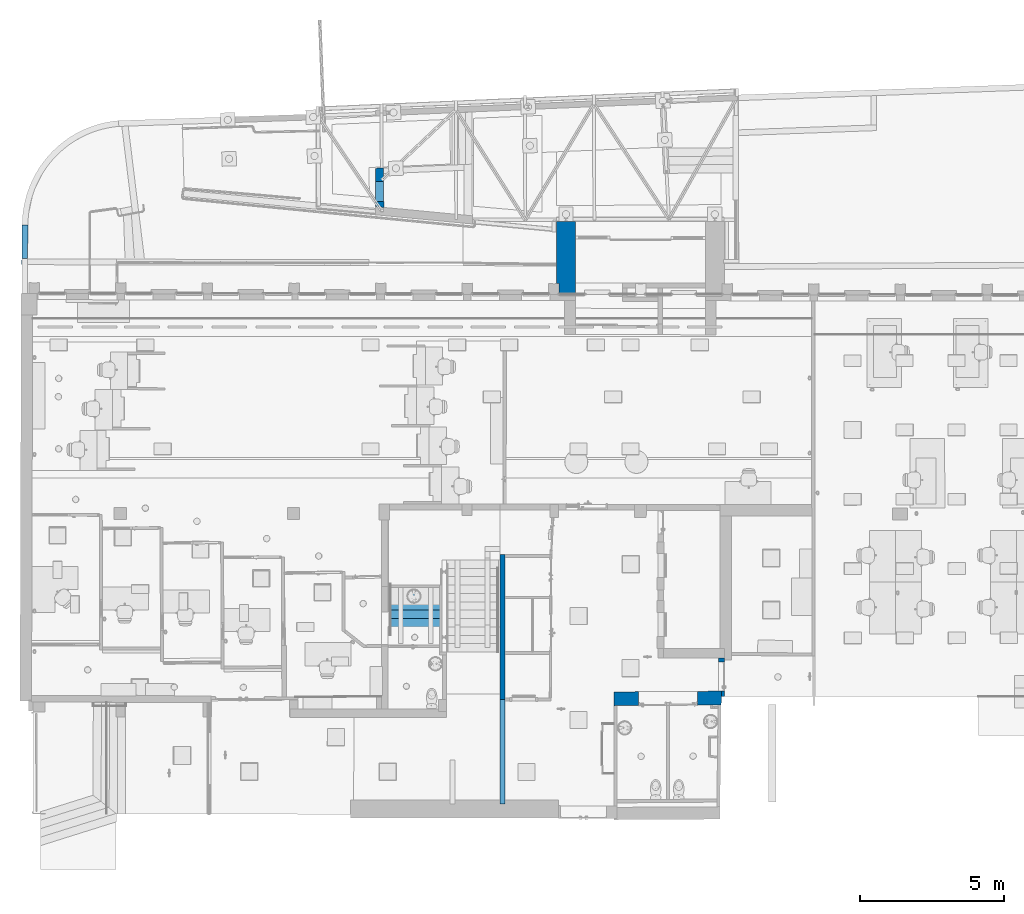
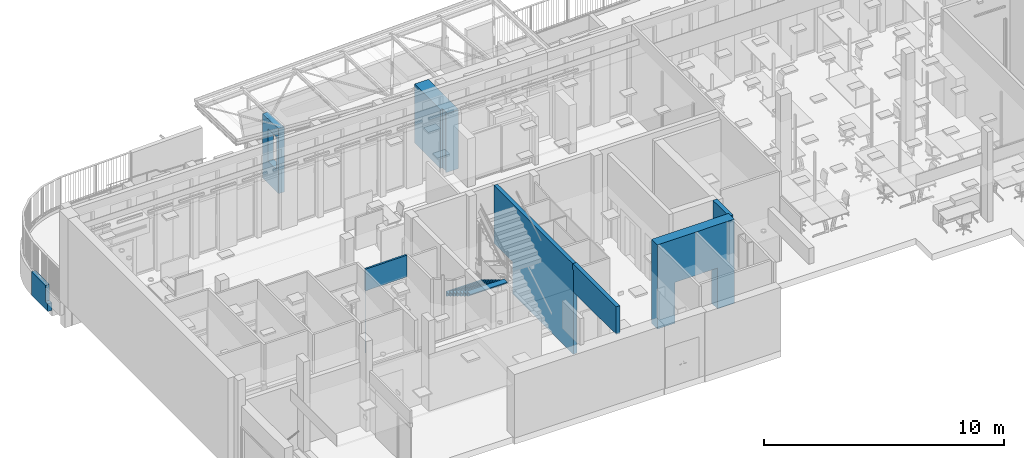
# One storey, part 33 of 128: 8 walls, 1 stair flight, 1 opening, 1 element without a shape of its own.
"""IFC2X3 building model written with IfcOpenShell, lengths in metres."""

from ifc_helpers import new_model, entity, si_unit, converted_unit, derived_unit, direction, frame, frame_2d, origin, place, context, subcontext, project, spatial, polyline, rectangle, outline, extrude, faceted_brep, material, layer, layer_set, type_object, element, aggregate, save


model = new_model("IFC2X3")

# Units and contexts
model_context = context("Model", 3, precision=1e-05, world=origin(), true_north=direction((6.123031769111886e-17, 1.0)))
body_context = subcontext(model_context, "Body", "Model", "MODEL_VIEW")
ifc_project = project(units=[si_unit("LENGTHUNIT", "METRE"), si_unit("AREAUNIT", "SQUARE_METRE"), converted_unit("PLANEANGLEUNIT", "DEGREE", entity("IfcPlaneAngleMeasure", 0.017453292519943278), si_unit("PLANEANGLEUNIT", "RADIAN"), dimensions=[0, 0, 0, 0, 0, 0, 0]), derived_unit("THERMALTRANSMITTANCEUNIT", [(si_unit("MASSUNIT", "GRAM", prefix="KILO"), 1), (si_unit("THERMODYNAMICTEMPERATUREUNIT", "KELVIN"), -1), (si_unit("TIMEUNIT", "SECOND"), -3)])], contexts=[model_context])

# Site, building, storey
site_placement = place(None, origin())
site = spatial("IfcSite", under=ifc_project, at=site_placement, Name="Default", CompositionType="ELEMENT")
building_placement = place(site_placement, origin())
building = spatial("IfcBuilding", under=site, at=building_placement, CompositionType="ELEMENT")
storey_placement = place(building_placement, origin())
storey = spatial("IfcBuildingStorey", under=building, at=storey_placement, Name="00_RDC CAF", CompositionType="ELEMENT", Elevation=2.4982504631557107e-13)

# Walls
ifc_material_1 = material(Name="STR - Beton Mur")
ifc_layer_1 = layer(ifc_material_1, 0.18)
ifc_layer_set_1 = layer_set([ifc_layer_1], Name="Mur de base:M_Int_Beton_180mm")
wall_type_1 = type_object("IfcWallType", Name="Mur de base:M_Int_Beton_180mm", PredefinedType="STANDARD", material=ifc_layer_set_1)
wall_1_placement = place(storey_placement, frame((22.969127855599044, 130.06823933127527, 0.0), z_axis=(0.0, 0.0, 1.0), x_axis=(0.0, 1.0, 0.0)))
element("IfcWall", 1, at=wall_1_placement, inside=storey, type_object=wall_type_1, Name="Mur de base:M_Int_Beton_180mm", ObjectType="Mur de base:M_Int_Beton_180mm", context=body_context, shape_type="Brep", body=[
    faceted_brep([(0.0, -0.08999999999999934, 4.278), (0.0, -0.08999999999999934, 3.1693846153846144), (0.0, -0.08999999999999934, 2.8694000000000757), (0.0, -0.08999999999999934, 0.0), (0.09999999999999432, -0.08999999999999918, 0.0), (1.6062939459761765, -0.09000000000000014, 0.0), (1.7062946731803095, -0.08999999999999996, 0.0), (3.5449463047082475, -0.08999999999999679, 0.0), (3.6049463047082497, -0.08999999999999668, 0.0), (4.959946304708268, -0.0899999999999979, 0.0), (5.059946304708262, -0.08999999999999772, 0.0), (5.059946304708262, -0.08999999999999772, 1.636846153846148), (6.614234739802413, -0.0899999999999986, 1.636846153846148), (6.614234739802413, -0.0899999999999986, 4.577999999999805), (5.099632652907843, -0.08999999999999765, 4.577999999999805), (0.04999999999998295, -0.08999999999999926, 4.577999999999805), (0.04999999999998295, -0.08999999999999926, 4.278), (0.0, 0.09000000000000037, 0.0), (0.0, 0.09000000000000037, 2.8694000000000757), (0.0, 0.09000000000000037, 3.169384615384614), (0.0, 0.09000000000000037, 4.278), (0.04999999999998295, 0.09000000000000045, 4.278), (0.04999999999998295, 0.09000000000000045, 4.577999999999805), (5.099632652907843, 0.09000000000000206, 4.577999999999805), (6.614234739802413, 0.08999999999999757, 4.577999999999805), (6.614234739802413, 0.08999999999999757, 1.636846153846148), (5.059946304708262, 0.090000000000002, 1.636846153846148), (5.059946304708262, 0.090000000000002, 0.0)], [[[0, 1, 2, 3, 4, 5, 6, 7, 8, 9, 10, 11, 12, 13, 14, 15, 16]], [[17, 18, 19, 20, 21, 22, 23, 24, 25, 26, 27]], [[10, 9, 8, 7, 6, 5, 4, 3, 17, 27]], [[15, 14, 23, 22]], [[12, 11, 26, 25]], [[13, 12, 25, 24]], [[14, 13, 24, 23]], [[11, 10, 27, 26]], [[16, 15, 22, 21]], [[16, 21, 20, 0]], [[0, 20, 19, 18, 17, 3, 2, 1]]]),
])
wall_2_placement = place(storey_placement, frame((22.969127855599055, 130.11823933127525, 3.1693846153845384), z_axis=(0.0, 0.0, 1.0), x_axis=(0.0, -1.0, 0.0)))
element("IfcWall", 2, at=wall_2_placement, inside=storey, type_object=wall_type_1, Name="Mur de base:M_Int_Beton_180mm", ObjectType="Mur de base:M_Int_Beton_180mm", context=body_context, shape_type="Brep", body=[
    faceted_brep([(0.04999999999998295, -0.08999999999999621, 0.0), (2.1074878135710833, -0.08999999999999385, 0.0), (2.2874878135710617, -0.09000000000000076, 0.0), (3.6259827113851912, -0.08999999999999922, 0.0), (3.6259827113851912, -0.08999999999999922, 1.4086153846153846), (2.2874878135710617, -0.09000000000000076, 1.4086153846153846), (2.1074878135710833, -0.08999999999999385, 1.4086153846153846), (0.0, -0.08999999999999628, 1.4086153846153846), (0.0, -0.08999999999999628, 1.1086153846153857), (0.04999999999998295, -0.08999999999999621, 1.1086153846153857), (0.04999999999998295, 0.08999999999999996, 0.0), (0.04999999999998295, 0.08999999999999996, 1.1086153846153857), (0.0, 0.08999999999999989, 1.1086153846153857), (0.0, 0.08999999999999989, 1.4086153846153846), (3.6259827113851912, 0.0900000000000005, 1.4086153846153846), (3.6259827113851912, 0.0900000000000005, 0.0)], [[[0, 1, 2, 3, 4, 5, 6, 7, 8, 9]], [[10, 11, 12, 13, 14, 15]], [[3, 2, 1, 0, 10, 15]], [[4, 3, 15, 14]], [[7, 6, 5, 4, 14, 13]], [[8, 7, 13, 12]], [[8, 12, 11, 9]], [[0, 9, 11, 10]]]),
])
ifc_material_2 = material(Name="ARC - Cloison")
ifc_layer_2 = layer(ifc_material_2, 0.09)
ifc_layer_set_2 = layer_set([ifc_layer_2], Name="Mur de base:Cl_Platre_90mm")
wall_type_2 = type_object("IfcWallType", Name="Mur de base:Cl_Platre_90mm", PredefinedType="STANDARD", material=ifc_layer_set_2)
wall_3_placement = place(storey_placement, frame((15.414664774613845, 134.49034258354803, 0.0), z_axis=(0.0, 0.0, 1.0), x_axis=(0.9998908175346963, 0.014776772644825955, 0.0)))
element("IfcWall", 3, at=wall_3_placement, inside=storey, type_object=wall_type_2, Name="Mur de base:Cl_Platre_90mm", ObjectType="Mur de base:Cl_Platre_90mm", context=body_context, shape_type="Brep", body=[
    faceted_brep([(2.004537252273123, -0.044999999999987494, 4.278), (0.0, -0.044999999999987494, 4.278), (0.0, -0.044999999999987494, 0.0), (0.0005472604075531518, -0.045000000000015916, 0.0), (0.0005472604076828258, -0.045000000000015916, 3.174999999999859), (2.004537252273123, -0.044999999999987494, 3.174999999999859), (0.001094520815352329, 0.045000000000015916, 4.278), (2.0045372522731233, 0.045000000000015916, 4.278), (2.004537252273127, 0.045000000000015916, 3.174999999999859), (0.001094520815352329, 0.045000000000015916, 3.174999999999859), (0.000547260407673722, 0.0, 0.0), (0.0005472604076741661, -0.025000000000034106, 0.0), (2.0045372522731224, -0.02499999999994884, 3.174999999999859), (2.0045372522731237, 0.0, 3.174999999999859), (0.0005472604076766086, 0.0, 3.174999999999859), (0.0005472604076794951, -0.025000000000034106, 3.174999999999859)], [[[0, 1, 2, 3, 4, 5]], [[6, 7, 8, 9]], [[3, 2, 10, 11]], [[7, 0, 5, 12, 13, 8]], [[1, 0, 7, 6]], [[2, 1, 6, 9, 14, 10]], [[5, 4, 15, 14, 9, 8, 13, 12]], [[4, 3, 11, 10, 14, 15]]]),
])

# Wall, opening
ifc_layer_3 = layer(ifc_material_1, 0.20999999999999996)
ifc_layer_set_3 = layer_set([ifc_layer_3], Name="Mur de base:M_Int_Beton_210mm")
wall_type_3 = type_object("IfcWallType", Name="Mur de base:M_Int_Beton_210mm", PredefinedType="STANDARD", material=ifc_layer_set_3)
wall_4_placement = place(storey_placement, frame((30.553265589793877, 131.55552141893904, 0.0), z_axis=(0.0, 0.0, 1.0), x_axis=(0.0, -1.0, 0.0)))
wall_4 = element("IfcWall", 4, at=wall_4_placement, inside=storey, type_object=wall_type_3, Name="Mur de base:M_Int_Beton_210mm", ObjectType="Mur de base:M_Int_Beton_210mm", context=body_context, shape_type="Brep", body=[
    faceted_brep([(0.0, -0.10500000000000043, 0.0), (0.1527245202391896, -0.10500000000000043, 0.0), (0.1527245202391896, -0.10500000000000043, 2.0050000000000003), (1.1527245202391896, -0.10500000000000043, 2.0050000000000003), (1.1527245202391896, -0.10500000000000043, 0.0), (1.1548155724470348, -0.10500000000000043, 0.0), (1.1548155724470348, -0.10500000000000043, 4.278), (0.0, -0.10500000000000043, 4.278), (1.3405848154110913, 0.10500000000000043, 4.278), (1.3405848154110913, 0.10500000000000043, 0.0), (1.1527245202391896, 0.10500000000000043, 0.0), (1.1527245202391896, 0.10500000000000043, 2.0050000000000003), (0.1527245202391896, 0.10500000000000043, 2.0050000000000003), (0.1527245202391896, 0.10500000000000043, 0.0), (0.08097166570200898, 0.10500000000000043, 0.0), (0.0, 0.10500000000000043, 0.0), (0.0, 0.10500000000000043, 4.278), (0.08097166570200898, 0.10500000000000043, 4.278), (1.3405848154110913, -0.0063559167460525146, 4.278), (1.3405848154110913, -0.006355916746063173, 0.0), (1.154123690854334, -0.004082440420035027, 4.278), (1.154123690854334, -0.004082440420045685, 0.0)], [[[0, 1, 2, 3, 4, 5, 6, 7]], [[8, 9, 10, 11, 12, 13, 14, 15, 16, 17]], [[1, 0, 15, 14, 13]], [[9, 8, 18, 19]], [[8, 17, 16, 7, 6, 20, 18]], [[2, 12, 11, 3]], [[12, 2, 1, 13]], [[3, 11, 10, 4]], [[21, 20, 6, 5]], [[20, 21, 19, 18]], [[0, 7, 16, 15]], [[10, 9, 19, 21, 5, 4]]]),
])
opening_placement = place(wall_4_placement, frame((0.15272452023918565, -0.10499999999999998, 0.0)))
element("IfcOpeningElement", 5, at=opening_placement, cuts=wall_4, Name="P_Tunnel_Simple:P_Int_Simple_Pleine_930x1970mm:1", ObjectType="Opening", context=body_context, shape_type="SweptSolid", body=[
    extrude(rectangle(XDim=2.005, YDim=1.0, at=frame_2d((1.0025, 0.5), x_axis=(1.0, 0.0))), frame((0.0, 0.0, 0.0), z_axis=(0.0, 1.0, 0.0), x_axis=(0.0, 0.0, 1.0)), (0.0, 0.0, 1.0), 0.20999999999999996),
])

# Walls
ifc_layer_4 = layer(ifc_material_1, 0.6599999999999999)
ifc_layer_set_4 = layer_set([ifc_layer_4], Name="Mur de base:M_Int_Beton_660mm")
wall_type_4 = type_object("IfcWallType", Name="Mur de base:M_Int_Beton_660mm", PredefinedType="STANDARD", material=ifc_layer_set_4)
wall_5_placement = place(storey_placement, frame((25.164872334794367, 144.13907815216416, 0.0), z_axis=(0.0, 0.0, 1.0), x_axis=(0.0, 1.0, 0.0)))
element("IfcWall", 6, at=wall_5_placement, inside=storey, type_object=wall_type_4, Name="Mur de base:M_Int_Beton_660mm", ObjectType="Mur de base:M_Int_Beton_660mm", context=body_context, shape_type="Brep", body=[
    faceted_brep([(0.0, -0.3300000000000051, 0.0), (2.5268912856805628, -0.3299999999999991, 0.0), (2.5268912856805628, -0.3299999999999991, 3.0), (1.9168912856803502, -0.32999999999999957, 3.0), (1.9168912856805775, -0.32999999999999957, 2.4500000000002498), (0.0, -0.3300000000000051, 2.4500000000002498), (0.3753535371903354, 0.33000000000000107, 3.0), (2.5268912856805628, 0.330000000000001, 3.0), (2.5268912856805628, 0.330000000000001, 0.0), (0.3753535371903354, 0.33000000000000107, 0.0), (0.0009575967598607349, 0.27888899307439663, 0.0), (0.030957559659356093, 0.2788418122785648, 0.0), (0.030885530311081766, 0.23304186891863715, 0.0), (0.3858850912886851, 0.23248356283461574, 0.0), (0.3858850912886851, 0.2324835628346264, 3.0), (0.030885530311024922, 0.23304186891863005, 3.0), (0.030957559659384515, 0.2788418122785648, 3.0), (0.0009575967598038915, 0.2788889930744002, 3.0), (0.0005881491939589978, 0.04397533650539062, 3.0), (5.72774524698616e-06, -0.326358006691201, 3.0), (5.727745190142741e-06, -0.32635800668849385, 2.4500000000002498)], [[[0, 1, 2, 3, 4, 5]], [[6, 7, 8, 9]], [[1, 0, 10, 11, 12, 13, 9, 8]], [[7, 6, 14, 15, 16, 17, 18, 19, 3, 2]], [[13, 14, 6, 9]], [[14, 13, 12, 15]], [[15, 12, 11, 16]], [[16, 11, 10, 17]], [[10, 0, 5, 20, 19, 18, 17]], [[4, 20, 5]], [[20, 4, 3, 19]], [[2, 1, 8, 7]]]),
])
ifc_layer_5 = layer(ifc_material_1, 0.48)
ifc_layer_set_5 = layer_set([ifc_layer_5], Name="Mur de base:M_Int_Beton_480mm")
wall_type_5 = type_object("IfcWallType", Name="Mur de base:M_Int_Beton_480mm", PredefinedType="STANDARD", material=ifc_layer_set_5)
wall_6_placement = place(storey_placement, frame((26.826730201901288, 130.1358712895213, 0.0), z_axis=(0.0, 0.0, 1.0), x_axis=(0.9999764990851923, 0.0068557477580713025, 0.0)))
element("IfcWall", 7, at=wall_6_placement, inside=storey, type_object=wall_type_5, Name="Mur de base:M_Int_Beton_480mm", ObjectType="Mur de base:M_Int_Beton_480mm", context=body_context, shape_type="Brep", body=[
    faceted_brep([(0.0, -0.23999999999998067, 0.0), (0.11000258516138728, -0.23999999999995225, 0.0), (0.8491508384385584, -0.23999999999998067, 0.0), (0.8491508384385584, -0.23999999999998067, 2.07499999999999), (1.8191508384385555, -0.23999999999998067, 2.07499999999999), (1.930371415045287, -0.23999999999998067, 2.07499999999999), (2.900371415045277, -0.23999999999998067, 2.07499999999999), (2.900371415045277, -0.23999999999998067, 0.0), (3.343824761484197, -0.23999999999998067, 0.0), (3.3939463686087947, -0.23999999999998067, 0.0), (3.6050217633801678, -0.23999999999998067, 0.0), (3.715041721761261, -0.23999999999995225, 0.0), (3.715041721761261, -0.23999999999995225, 4.277999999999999), (3.6050217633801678, -0.23999999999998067, 4.277999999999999), (3.3939463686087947, -0.23999999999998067, 4.277999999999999), (3.343824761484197, -0.23999999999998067, 4.277999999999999), (1.929394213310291, -0.23999999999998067, 4.277999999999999), (1.8193916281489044, -0.23999999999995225, 4.277999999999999), (0.11000258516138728, -0.23999999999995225, 4.277999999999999), (0.0, -0.23999999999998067, 4.277999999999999), (0.8491508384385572, 0.2400000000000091, 0.0), (0.0032908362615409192, 0.2400000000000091, 0.0), (0.0032908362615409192, 0.2400000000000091, 4.277999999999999), (3.623265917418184, 0.2400000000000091, 4.277999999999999), (3.7241858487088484, 0.2400000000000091, 4.277999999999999), (3.7241858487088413, 0.2400000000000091, 0.0), (3.623265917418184, 0.2400000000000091, 0.0), (2.9003714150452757, 0.24000000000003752, 0.0), (2.9003714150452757, 0.24000000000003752, 2.07499999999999), (1.9303714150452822, 0.24000000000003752, 2.07499999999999), (1.8191508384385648, 0.2400000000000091, 2.07499999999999), (0.8491508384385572, 0.2400000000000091, 2.07499999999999), (3.720634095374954, 0.053558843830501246, 4.277999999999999), (3.7206340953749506, 0.053558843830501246, 0.0)], [[[0, 1, 2, 3, 4, 5, 6, 7, 8, 9, 10, 11, 12, 13, 14, 15, 16, 17, 18, 19]], [[20, 21, 22, 23, 24, 25, 26, 27, 28, 29, 30, 31]], [[0, 19, 22, 21]], [[2, 1, 0, 21, 20]], [[19, 18, 17, 16, 15, 14, 13, 12, 32, 24, 23, 22]], [[3, 2, 20, 31]], [[3, 31, 30, 29, 28, 6, 5, 4]], [[7, 6, 28, 27]], [[11, 10, 9, 8, 7, 27, 26, 25, 33]], [[12, 11, 33, 25, 24, 32]]]),
])
ifc_layer_6 = layer(ifc_material_1, 0.2)
ifc_layer_set_6 = layer_set([ifc_layer_6], Name="Mur de base:M_Ext_Beton_200mm")
wall_type_6 = type_object("IfcWallType", Name="Mur de base:M_Ext_Beton_200mm", PredefinedType="STANDARD", material=ifc_layer_set_6)
wall_7_placement = place(storey_placement, frame((6.4376585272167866, 146.55111964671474, -1.196000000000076), z_axis=(0.0, 0.0, 1.0), x_axis=(-0.013387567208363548, -0.9999103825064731, 0.0)))
element("IfcWall", 8, at=wall_7_placement, inside=storey, type_object=wall_type_6, Name="Mur de base:M_Ext_Beton_200mm", ObjectType="Mur de base:M_Ext_Beton_200mm", context=body_context, shape_type="Brep", body=[
    faceted_brep([(0.0009541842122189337, -0.09999999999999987, 0.0), (1.3826588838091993, -0.10000000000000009, 0.0), (1.3826588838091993, -0.10000000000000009, 0.3959999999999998), (1.1752795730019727, -0.10000000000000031, 0.3959999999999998), (1.1752795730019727, -0.10000000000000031, 1.196000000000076), (0.0009541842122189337, -0.09999999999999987, 1.196000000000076), (0.0, 0.09999999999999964, 0.0), (0.0, 0.09999999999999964, 1.196000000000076), (1.1739407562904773, 0.10000000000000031, 1.196000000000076), (1.1739407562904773, 0.10000000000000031, 0.3959999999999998), (1.380435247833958, 0.09999999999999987, 0.3959999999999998), (1.380435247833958, 0.09999999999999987, 0.0)], [[[0, 1, 2, 3, 4, 5]], [[6, 7, 8, 9, 10, 11]], [[1, 0, 6, 11]], [[5, 4, 8, 7]], [[0, 5, 7, 6]], [[9, 3, 2, 10]], [[2, 1, 11, 10]], [[3, 9, 8, 4]]]),
])
ifc_layer_7 = layer(ifc_material_1, 0.28)
ifc_layer_set_7 = layer_set([ifc_layer_7], Name="Mur de base:M_Ext_Beton_280mm")
wall_type_7 = type_object("IfcWallType", Name="Mur de base:M_Ext_Beton_280mm", PredefinedType="STANDARD", material=ifc_layer_set_7)
wall_8_placement = place(storey_placement, frame((18.711569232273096, 148.51805379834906, -0.7000000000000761), z_axis=(0.0, 0.0, 1.0), x_axis=(0.004645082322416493, -0.9999892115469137, 0.0)))
element("IfcWall", 9, at=wall_8_placement, inside=storey, type_object=wall_type_7, Name="Mur de base:M_Ext_Beton_280mm", ObjectType="Mur de base:M_Ext_Beton_280mm", context=body_context, shape_type="Brep", body=[
    faceted_brep([(0.01081485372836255, -0.14000000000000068, 0.0), (1.3390357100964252, -0.13999999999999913, 0.0), (1.3390357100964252, -0.13999999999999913, 3.1800000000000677), (1.3390357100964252, -0.13999999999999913, 3.297503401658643), (0.01081485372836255, -0.14000000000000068, 3.26052856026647), (1.158275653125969, -0.14000000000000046, 1.1299999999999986), (0.4615140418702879, -0.14000000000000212, 1.1299999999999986), (0.4615140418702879, -0.14000000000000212, 2.7699999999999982), (1.158275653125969, -0.14000000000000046, 2.7699999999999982), (0.0, 0.1399999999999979, 0.0), (0.0, 0.1399999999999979, 1.150000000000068), (0.0, 0.1399999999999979, 3.260227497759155), (1.3668259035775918, 0.13999999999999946, 3.298277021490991), (1.3668259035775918, 0.13999999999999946, 0.0), (1.1582756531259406, 0.13999999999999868, 1.1299999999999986), (1.1582756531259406, 0.13999999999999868, 2.7699999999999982), (0.46151404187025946, 0.13999999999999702, 2.7699999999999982), (0.46151404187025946, 0.13999999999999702, 1.1299999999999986)], [[[0, 1, 2, 3, 4], [5, 6, 7, 8]], [[9, 10, 11, 12, 13], [14, 15, 16, 17]], [[0, 4, 11, 10, 9]], [[1, 0, 9, 13]], [[4, 3, 12, 11]], [[6, 5, 14, 17]], [[7, 6, 17, 16]], [[8, 7, 16, 15]], [[5, 8, 15, 14]], [[3, 2, 1, 13, 12]]]),
])

# Stair, stair flight
type_product = type_object("IfcTypeProduct", Name="Escalier assemblé:E_Escalier_Assemble_Béton 2")
stair_placement = place(storey_placement, origin())
stair = element("IfcStair", 10, at=stair_placement, inside=storey, type_object=type_product, Name="Escalier assemblé:Escalier", ObjectType="Escalier assemblé:E_Escalier_Assemble_Béton 2", ShapeType="NOTDEFINED")
ifc_material_3 = material(Name="STR - Beton")
stair_flight_type = type_object("IfcStairFlightType", Name="Volée non-monobloc:Béton_Marche 50 mm avec Contremarche + nez 30mm 2", PredefinedType="STRAIGHT")
stair_flight_placement = place(stair_placement, origin())
stair_flight = element("IfcStairFlight", 11, at=stair_flight_placement, type_object=stair_flight_type, material=ifc_material_3, Name="Escalier assemblé:Escalier:459485 Run 2", ObjectType="Volée non-monobloc:Béton_Marche 50 mm avec Contremarche + nez 30mm 2", NumberOfRiser=7, NumberOfTreads=7, RiserHeight=0.5776801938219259, TreadLength=0.9514435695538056, context=body_context, shape_type="SweptSolid", body=[
    extrude(outline(polyline([(-0.007667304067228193, -0.1540096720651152), (0.042654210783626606, -0.1540096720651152), (0.007667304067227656, 0.15400967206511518), (-0.04265421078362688, 0.15400967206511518), (-0.007667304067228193, -0.1540096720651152)])), frame((19.06652198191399, 133.91564333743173, 2.087923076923), z_axis=(1.0, 0.0, 0.0), x_axis=(0.0, -0.11286098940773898, -0.9936107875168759)), (0.0, 0.0, 1.0), 1.7999999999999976),
    extrude(outline(polyline([(-0.03516075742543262, -0.0880384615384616), (0.015160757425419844, -0.0880384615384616), (0.035160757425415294, 0.08803846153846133), (-0.015160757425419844, 0.08803846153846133), (-0.03516075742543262, -0.0880384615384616)])), frame((19.06652198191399, 134.03264291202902, 1.9748846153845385), z_axis=(1.0, 0.0, 0.0), x_axis=(0.0, -1.0, 0.0)), (0.0, 0.0, 1.0), 1.799999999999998),
    extrude(outline(polyline([(-0.03516075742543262, -0.0880384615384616), (0.015160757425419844, -0.0880384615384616), (0.035160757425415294, 0.08803846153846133), (-0.015160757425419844, 0.08803846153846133), (-0.03516075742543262, -0.0880384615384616)])), frame((19.06652198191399, 133.74264291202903, 2.1509615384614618), z_axis=(1.0, 0.0, 0.0), x_axis=(0.0, -1.0, 0.0)), (0.0, 0.0, 1.0), 1.799999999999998),
    extrude(outline(polyline([(-0.007667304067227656, -0.15400967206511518), (0.04265421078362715, -0.15400967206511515), (0.007667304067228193, 0.1540096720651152), (-0.04265421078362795, 0.15400967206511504), (-0.007667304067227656, -0.15400967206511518)])), frame((19.06652198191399, 133.62564333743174, 2.263999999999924), z_axis=(1.0, 0.0, 0.0), x_axis=(0.0, -0.11286098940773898, -0.9936107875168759)), (0.0, 0.0, 1.0), 1.7999999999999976),
    extrude(outline(polyline([(-0.035160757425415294, -0.08803846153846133), (0.015160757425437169, -0.08803846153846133), (0.03516075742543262, 0.0880384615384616), (-0.015160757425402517, 0.0880384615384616), (-0.035160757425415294, -0.08803846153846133)])), frame((19.06652198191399, 133.45264291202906, 2.327038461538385), z_axis=(1.0, 0.0, 0.0), x_axis=(0.0, -1.0, 0.0)), (0.0, 0.0, 1.0), 1.799999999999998),
    extrude(outline(polyline([(-0.007667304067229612, -0.15400967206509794), (0.04265421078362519, -0.15400967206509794), (0.007667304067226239, 0.15400967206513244), (-0.042654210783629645, 0.1540096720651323), (-0.007667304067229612, -0.15400967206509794)])), frame((19.06652198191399, 133.33564333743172, 2.4400769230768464), z_axis=(1.0, 0.0, 0.0), x_axis=(0.0, -0.11286098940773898, -0.9936107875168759)), (0.0, 0.0, 1.0), 1.7999999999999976),
    extrude(outline(polyline([(-0.03516075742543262, -0.0880384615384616), (0.015160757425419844, -0.0880384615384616), (0.035160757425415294, 0.08803846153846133), (-0.015160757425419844, 0.08803846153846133), (-0.03516075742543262, -0.0880384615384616)])), frame((19.066521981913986, 133.162642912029, 2.503115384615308), z_axis=(1.0, 0.0, 0.0), x_axis=(0.0, -1.0, 0.0)), (0.0, 0.0, 1.0), 1.799999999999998),
    extrude(outline(polyline([(-0.007667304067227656, -0.15400967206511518), (0.04265421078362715, -0.15400967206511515), (0.007667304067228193, 0.1540096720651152), (-0.04265421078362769, 0.15400967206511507), (-0.007667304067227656, -0.15400967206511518)])), frame((19.066521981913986, 133.04564333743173, 2.61615384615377), z_axis=(1.0, 0.0, 0.0), x_axis=(0.0, -0.11286098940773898, -0.9936107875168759)), (0.0, 0.0, 1.0), 1.7999999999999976),
    extrude(outline(polyline([(-0.035160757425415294, -0.08803846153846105), (0.015160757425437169, -0.08803846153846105), (0.03516075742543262, 0.0880384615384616), (-0.015160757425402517, 0.0880384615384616), (-0.035160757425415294, -0.08803846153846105)])), frame((19.066521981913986, 132.87264291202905, 2.6791923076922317), z_axis=(1.0, 0.0, 0.0), x_axis=(0.0, -1.0, 0.0)), (0.0, 0.0, 1.0), 1.799999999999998),
    extrude(outline(polyline([(-0.007667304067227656, -0.15400967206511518), (0.04265421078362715, -0.15400967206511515), (0.007667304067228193, 0.1540096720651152), (-0.04265421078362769, 0.15400967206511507), (-0.007667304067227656, -0.15400967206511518)])), frame((19.066521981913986, 132.75564333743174, 2.792230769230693), z_axis=(1.0, 0.0, 0.0), x_axis=(0.0, -0.11286098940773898, -0.9936107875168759)), (0.0, 0.0, 1.0), 1.7999999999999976),
    extrude(outline(polyline([(-0.03516075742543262, -0.08803846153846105), (0.015160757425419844, -0.08803846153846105), (0.035160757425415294, 0.0880384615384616), (-0.015160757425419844, 0.0880384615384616), (-0.03516075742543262, -0.08803846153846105)])), frame((19.066521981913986, 132.58264291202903, 2.8552692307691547), z_axis=(1.0, 0.0, 0.0), x_axis=(0.0, -1.0, 0.0)), (0.0, 0.0, 1.0), 1.799999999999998),
    extrude(outline(polyline([(-0.007667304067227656, -0.15400967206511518), (0.04265421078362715, -0.15400967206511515), (0.007667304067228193, 0.1540096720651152), (-0.04265421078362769, 0.15400967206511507), (-0.007667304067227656, -0.15400967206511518)])), frame((19.066521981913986, 132.46564333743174, 2.9683076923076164), z_axis=(1.0, 0.0, 0.0), x_axis=(0.0, -0.11286098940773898, -0.9936107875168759)), (0.0, 0.0, 1.0), 1.7999999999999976),
    extrude(outline(polyline([(-0.035160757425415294, -0.0880384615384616), (0.015160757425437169, -0.0880384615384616), (0.03516075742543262, 0.0880384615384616), (-0.015160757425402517, 0.0880384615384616), (-0.035160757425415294, -0.0880384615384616)])), frame((19.066521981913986, 132.29264291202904, 3.0313461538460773), z_axis=(1.0, 0.0, 0.0), x_axis=(0.0, -1.0, 0.0)), (0.0, 0.0, 1.0), 1.799999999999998),
    extrude(outline(polyline([(-0.02499999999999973, -0.1435801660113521), (0.025000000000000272, -0.1435801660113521), (0.025000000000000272, 0.14074049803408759), (-0.025000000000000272, 0.14641983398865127), (-0.02499999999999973, -0.1435801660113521)])), frame((19.066521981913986, 132.18706317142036, 3.1443846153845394), z_axis=(1.0, 0.0, 0.0), x_axis=(0.0, 0.0, -1.0)), (0.0, 0.0, 1.0), 1.799999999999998),
])
aggregate(stair, [stair_flight])

save(model, "model.ifc")
